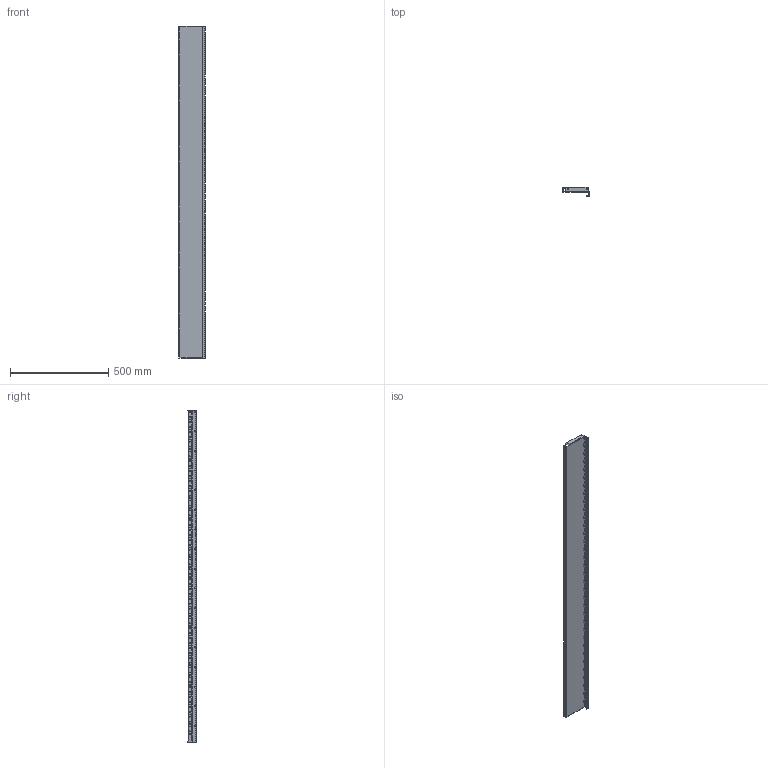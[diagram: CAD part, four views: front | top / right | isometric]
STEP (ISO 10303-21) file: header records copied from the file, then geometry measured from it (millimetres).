
FILE_DESCRIPTION(('CAx-IF Rec.Pracs.---Model Styling and Organization---1.2---2011-12-15','CAx-IF Rec.Pracs.---Geometric and Assembly Validation Properties---4.1---2014-06-16','CAx-IF Rec.Pracs.---PMI Polyline Presentation---2.0---2013-05-24'),'2;1');
FILE_NAME('R5M2ACRR33M10.stp','2021-05-05T11:59:33+03:00',(''),(''),'STEP Interface 4.4 by CT CoreTechnologie','3D_Evolution4.4 by CT CoreTechnologie','');
FILE_SCHEMA(('AUTOMOTIVE_DESIGN { 1 0 10303 214 1 1 1 1 }'));
Length unit declared in the file: millimetre
Products named in the file (2): R5M2ACRR33M10; RB.1401.00.00.0_-03
Assembly tree (1 placements, depth 2):
  R5M2ACRR33M10
    RB.1401.00.00.0_-03
Bounding box: 135 x 45 x 1690 mm (x, y, z)
Surface area: 672428.2 mm2 (no closed solid volume)
Topology: 0 solids, 1 shells, 1107 faces, 3895 edges, 2590 vertices
Faces by surface type: plane 721, cylinder 386
Entity records: 42502 total; most frequent: ORIENTED_EDGE 7790, CARTESIAN_POINT 7594, DIRECTION 6885, EDGE_CURVE 3895, VECTOR 3123, LINE 3123, VERTEX_POINT 2590, AXIS2_PLACEMENT_3D 1881
